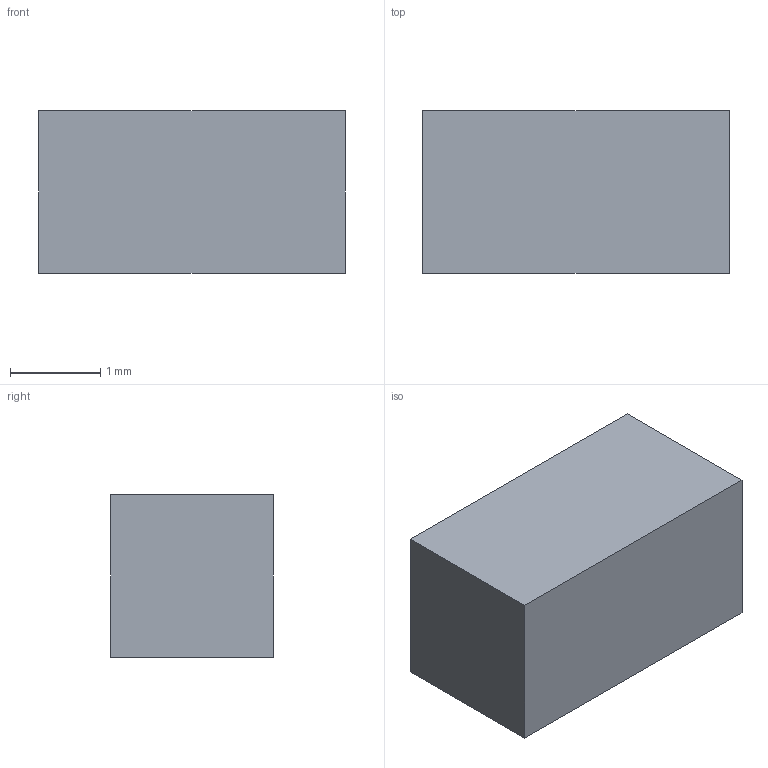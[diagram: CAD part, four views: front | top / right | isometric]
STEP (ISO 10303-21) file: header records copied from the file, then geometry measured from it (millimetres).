
FILE_DESCRIPTION(('Open CASCADE Model'),'2;1');
FILE_NAME('Open CASCADE Shape Model','2026-09-17T14:57:39',('Author'),( 'Open CASCADE'),'Open CASCADE STEP processor 7.8','Open CASCADE 7.8' ,'Unknown');
FILE_SCHEMA(('AUTOMOTIVE_DESIGN { 1 0 10303 214 1 1 1 1 }'));
Length unit declared in the file: millimetre
Products named in the file (1): Open CASCADE STEP translator 7.8 11
Bounding box: 3.4 x 1.8 x 1.8 mm (x, y, z)
Volume: 11 mm3; surface area: 31 mm2
Topology: 1 solids, 1 shells, 6 faces, 12 edges, 8 vertices
Faces by surface type: plane 6
Entity records: 322 total; most frequent: CARTESIAN_POINT 51, DIRECTION 50, LINE 36, VECTOR 36, ORIENTED_EDGE 24, PCURVE 24, DEFINITIONAL_REPRESENTATION 24, EDGE_CURVE 12
